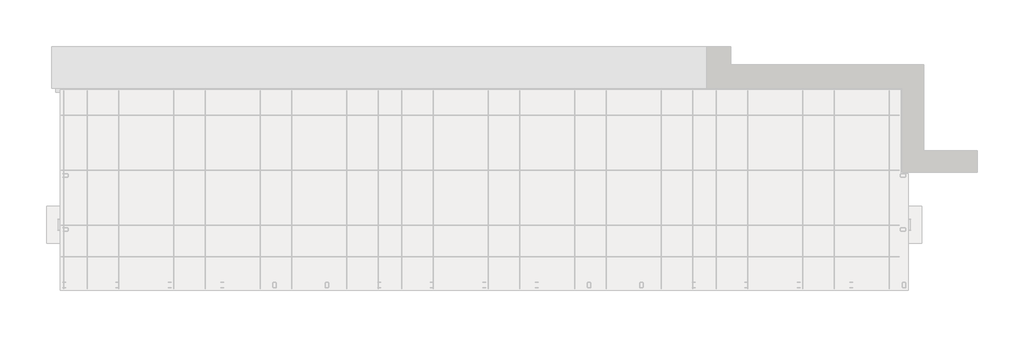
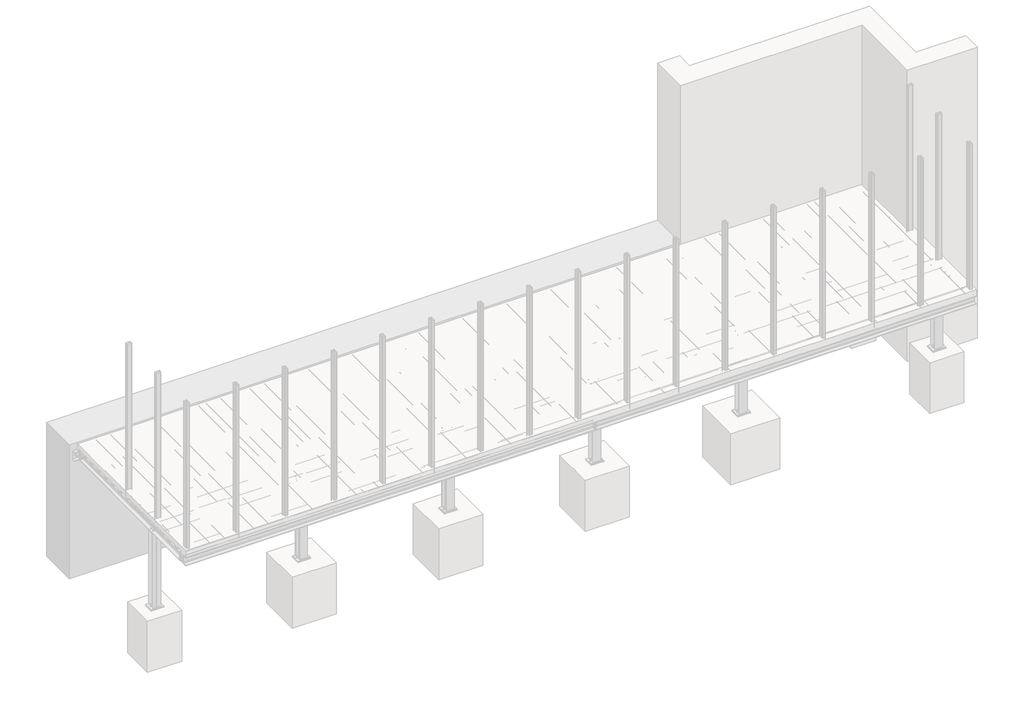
# One storey, part 26 of 36: 38 assemblies.
"""IFC4 building model written with IfcOpenShell, lengths in millimetres."""

from ifc_helpers import new_model, si_unit, point, frame, frame_2d, origin, place, context, project, spatial, polyline, circle_curve, trimmed, segment, composite_curve, outline, extrude, faceted_brep, element, save

model = new_model("IFC4")

# Units and contexts
model_context = context("Model", 3, world=origin())
ifc_project = project(units=[si_unit("LENGTHUNIT", "METRE", prefix="MILLI")], contexts=[model_context])

# Site, building, storey
site = spatial("IfcSite", under=ifc_project)
building = spatial("IfcBuilding", under=site)
storey = spatial("IfcBuildingStorey", under=building, Name="Základy", Elevation=-1200.0)

# Assemblies
placement = place(None, origin())
element("IfcElementAssembly", 1, at=placement, inside=storey, context=model_context, shape_type="SweptSolid", body=[
    extrude(outline(composite_curve([segment(polyline([(1200.0, -193.0), (1320.0, -193.0), (1320.0, -201.0), (1274.5, -201.0)]), True, "CONTINUOUS"), segment(trimmed(circle_curve(frame_2d((1274.5, -213.0)), 12.0), [point((1274.5, -201.0))], [point((1262.5, -213.0))], True, "CARTESIAN"), True, "CONTINUOUS"), segment(polyline([(1262.5, -213.0), (1262.5, -287.0)]), True, "CONTINUOUS"), segment(trimmed(circle_curve(frame_2d((1274.5, -287.0)), 12.0), [point((1262.5, -287.0))], [point((1274.5, -299.0))], True, "CARTESIAN"), True, "CONTINUOUS"), segment(polyline([(1274.5, -299.0), (1320.0, -299.0), (1320.0, -307.0), (1200.0, -307.0), (1200.0, -299.0), (1245.5, -299.0)]), True, "CONTINUOUS"), segment(trimmed(circle_curve(frame_2d((1245.5, -287.0)), 12.0), [point((1245.5, -299.0))], [point((1257.5, -287.0))], True, "CARTESIAN"), True, "CONTINUOUS"), segment(polyline([(1257.5, -287.0), (1257.5, -213.0)]), True, "CONTINUOUS"), segment(trimmed(circle_curve(frame_2d((1245.5, -213.0)), 12.0), [point((1257.5, -213.0))], [point((1245.5, -201.0))], True, "CARTESIAN"), True, "CONTINUOUS"), segment(polyline([(1245.5, -201.0), (1200.0, -201.0), (1200.0, -193.0)]), True, "CONTINUOUS")], self_intersect=False)), frame((6160.0, 0.0, 0.0), z_axis=(1.0, 0.0, 0.0), x_axis=(0.0, 1.0, 0.0)), (0.0, 0.0, 1.0), 2780.0),
    extrude(outline(polyline([(8940.0, 1200.0), (8940.0, 1320.0), (8950.0, 1320.0), (8950.0, 1200.0), (8940.0, 1200.0)])), frame((0.0, 0.0, -299.0), z_axis=(0.0, 0.0, 1.0), x_axis=(1.0, 0.0, 0.0)), (0.0, 0.0, 1.0), 98.0),
    extrude(outline(polyline([(6150.0, 1200.0), (6150.0, 1320.0), (6160.0, 1320.0), (6160.0, 1200.0), (6150.0, 1200.0)])), frame((0.0, 0.0, -299.0), z_axis=(0.0, 0.0, 1.0), x_axis=(1.0, 0.0, 0.0)), (0.0, 0.0, 1.0), 98.0),
])
element("IfcElementAssembly", 2, at=placement, inside=storey, context=model_context, shape_type="SweptSolid", body=[
    extrude(outline(composite_curve([segment(polyline([(6130.0, 1184.0), (5970.0, 1184.0), (5970.0, 1193.0), (6032.0, 1193.0)]), True, "CONTINUOUS"), segment(trimmed(circle_curve(frame_2d((6032.0, 1208.0)), 15.0), [point((6032.0, 1193.0))], [point((6047.0, 1208.0))], True, "CARTESIAN"), True, "CONTINUOUS"), segment(polyline([(6047.0, 1208.0), (6047.0, 1312.0)]), True, "CONTINUOUS"), segment(trimmed(circle_curve(frame_2d((6032.0, 1312.0)), 15.0), [point((6047.0, 1312.0))], [point((6032.0, 1327.0))], True, "CARTESIAN"), True, "CONTINUOUS"), segment(polyline([(6032.0, 1327.0), (5970.0, 1327.0), (5970.0, 1336.0), (6130.0, 1336.0), (6130.0, 1327.0), (6068.0, 1327.0)]), True, "CONTINUOUS"), segment(trimmed(circle_curve(frame_2d((6068.0, 1312.0)), 15.0), [point((6068.0, 1327.0))], [point((6053.0, 1312.0))], True, "CARTESIAN"), True, "CONTINUOUS"), segment(polyline([(6053.0, 1312.0), (6053.0, 1208.0)]), True, "CONTINUOUS"), segment(trimmed(circle_curve(frame_2d((6068.0, 1208.0)), 15.0), [point((6053.0, 1208.0))], [point((6068.0, 1193.0))], True, "CARTESIAN"), True, "CONTINUOUS"), segment(polyline([(6068.0, 1193.0), (6130.0, 1193.0), (6130.0, 1184.0)]), True, "CONTINUOUS")], self_intersect=False)), frame((0.0, 0.0, -1975.0), z_axis=(0.0, 0.0, 1.0), x_axis=(1.0, 0.0, 0.0)), (0.0, 0.0, 1.0), 1625.0),
    extrude(outline(polyline([(6175.0, 1356.0), (6175.0, 1164.0), (5925.0, 1164.0), (5925.0, 1356.0), (6175.0, 1356.0)])), frame((0.0, 0.0, -1990.0), z_axis=(0.0, 0.0, 1.0), x_axis=(1.0, 0.0, 0.0)), (0.0, 0.0, 1.0), 15.0),
    extrude(outline(polyline([(6140.0, 1346.0), (6140.0, 1174.0), (5960.0, 1174.0), (5960.0, 1346.0), (6140.0, 1346.0)])), frame((0.0, 0.0, -350.0), z_axis=(0.0, 0.0, 1.0), x_axis=(1.0, 0.0, 0.0)), (0.0, 0.0, 1.0), 10.0),
    extrude(outline(polyline([(5982.7364934, 1260.0), (5978.8682467, 1253.3000002), (5971.1317533, 1253.3000002), (5967.2635066, 1260.0), (5971.1317533, 1266.6999998), (5978.8682467, 1266.6999998), (5982.7364934, 1260.0)])), frame((0.0, 0.0, -2122.0), z_axis=(0.0, 0.0, 1.0), x_axis=(1.0, 0.0, 0.0)), (0.0, 0.0, 1.0), 132.0),
    extrude(outline(composite_curve([segment(trimmed(circle_curve(frame_2d((5975.0, 1260.0)), 8.0), [point((5983.0, 1260.0))], [point((5967.0, 1260.0))], False, "CARTESIAN"), True, "CONTINUOUS"), segment(trimmed(circle_curve(frame_2d((5975.0, 1260.0)), 8.0), [point((5967.0, 1260.0))], [point((5983.0, 1260.0))], False, "CARTESIAN"), True, "CONTINUOUS")], self_intersect=False)), frame((0.0, 0.0, -1990.0), z_axis=(0.0, 0.0, 1.0), x_axis=(1.0, 0.0, 0.0)), (0.0, 0.0, 1.0), 58.0),
    extrude(outline(composite_curve([segment(trimmed(circle_curve(frame_2d((5975.0, 1260.0)), 15.0), [point((5990.0, 1260.0))], [point((5960.0, 1260.0))], False, "CARTESIAN"), True, "CONTINUOUS"), segment(trimmed(circle_curve(frame_2d((5975.0, 1260.0)), 15.0), [point((5960.0, 1260.0))], [point((5990.0, 1260.0))], False, "CARTESIAN"), True, "CONTINUOUS")], self_intersect=False)), frame((0.0, 0.0, -1975.0), z_axis=(0.0, 0.0, 1.0), x_axis=(1.0, 0.0, 0.0)), (0.0, 0.0, 1.0), 3.0),
    extrude(outline(polyline([(5990.4441197, 1260.0), (5982.7220599, 1246.625), (5967.2779401, 1246.625), (5959.5558803, 1260.0), (5967.2779401, 1273.375), (5982.7220599, 1273.375), (5990.4441197, 1260.0)])), frame((0.0, 0.0, -1972.0), z_axis=(0.0, 0.0, 1.0), x_axis=(1.0, 0.0, 0.0)), (0.0, 0.0, 1.0), 13.0),
    extrude(outline(composite_curve([segment(trimmed(circle_curve(frame_2d((5975.0, 1260.0)), 9.0), [point((5984.0, 1260.0))], [point((5966.0, 1260.0))], False, "CARTESIAN"), True, "CONTINUOUS"), segment(trimmed(circle_curve(frame_2d((5975.0, 1260.0)), 9.0), [point((5966.0, 1260.0))], [point((5984.0, 1260.0))], False, "CARTESIAN"), True, "CONTINUOUS")], self_intersect=False)), frame((0.0, 0.0, -1990.0), z_axis=(0.0, 0.0, 1.0), x_axis=(1.0, 0.0, 0.0)), (0.0, 0.0, 1.0), 15.1),
    extrude(outline(polyline([(6132.7364934, 1260.0), (6128.8682467, 1253.3000002), (6121.1317533, 1253.3000002), (6117.2635066, 1260.0), (6121.1317533, 1266.6999998), (6128.8682467, 1266.6999998), (6132.7364934, 1260.0)])), frame((0.0, 0.0, -2122.0), z_axis=(0.0, 0.0, 1.0), x_axis=(1.0, 0.0, 0.0)), (0.0, 0.0, 1.0), 132.0),
    extrude(outline(composite_curve([segment(trimmed(circle_curve(frame_2d((6125.0, 1260.0)), 8.0), [point((6133.0, 1260.0))], [point((6117.0, 1260.0))], False, "CARTESIAN"), True, "CONTINUOUS"), segment(trimmed(circle_curve(frame_2d((6125.0, 1260.0)), 8.0), [point((6117.0, 1260.0))], [point((6133.0, 1260.0))], False, "CARTESIAN"), True, "CONTINUOUS")], self_intersect=False)), frame((0.0, 0.0, -1990.0), z_axis=(0.0, 0.0, 1.0), x_axis=(1.0, 0.0, 0.0)), (0.0, 0.0, 1.0), 58.0),
    extrude(outline(composite_curve([segment(trimmed(circle_curve(frame_2d((6125.0, 1260.0)), 15.0), [point((6140.0, 1260.0))], [point((6110.0, 1260.0))], False, "CARTESIAN"), True, "CONTINUOUS"), segment(trimmed(circle_curve(frame_2d((6125.0, 1260.0)), 15.0), [point((6110.0, 1260.0))], [point((6140.0, 1260.0))], False, "CARTESIAN"), True, "CONTINUOUS")], self_intersect=False)), frame((0.0, 0.0, -1975.0), z_axis=(0.0, 0.0, 1.0), x_axis=(1.0, 0.0, 0.0)), (0.0, 0.0, 1.0), 3.0),
    extrude(outline(polyline([(6140.4441197, 1260.0), (6132.7220599, 1246.625), (6117.2779401, 1246.625), (6109.5558803, 1260.0), (6117.2779401, 1273.375), (6132.7220599, 1273.375), (6140.4441197, 1260.0)])), frame((0.0, 0.0, -1972.0), z_axis=(0.0, 0.0, 1.0), x_axis=(1.0, 0.0, 0.0)), (0.0, 0.0, 1.0), 13.0),
    extrude(outline(composite_curve([segment(trimmed(circle_curve(frame_2d((6125.0, 1260.0)), 9.0), [point((6134.0, 1260.0))], [point((6116.0, 1260.0))], False, "CARTESIAN"), True, "CONTINUOUS"), segment(trimmed(circle_curve(frame_2d((6125.0, 1260.0)), 9.0), [point((6116.0, 1260.0))], [point((6134.0, 1260.0))], False, "CARTESIAN"), True, "CONTINUOUS")], self_intersect=False)), frame((0.0, 0.0, -1990.0), z_axis=(0.0, 0.0, 1.0), x_axis=(1.0, 0.0, 0.0)), (0.0, 0.0, 1.0), 15.1),
    extrude(outline(composite_curve([segment(trimmed(circle_curve(frame_2d((6000.0, 1220.0)), 6.5), [point((6006.5, 1220.0))], [point((5993.5, 1220.0))], False, "CARTESIAN"), True, "CONTINUOUS"), segment(trimmed(circle_curve(frame_2d((6000.0, 1220.0)), 6.5), [point((5993.5, 1220.0))], [point((6006.5, 1220.0))], False, "CARTESIAN"), True, "CONTINUOUS")], self_intersect=False)), frame((0.0, 0.0, -350.0), z_axis=(0.0, 0.0, 1.0), x_axis=(1.0, 0.0, 0.0)), (0.0, 0.0, 1.0), 10.1),
    extrude(outline(polyline([(6010.3923048, 1220.0), (6005.1961524, 1211.0), (5994.8038476, 1211.0), (5989.6076952, 1220.0), (5994.8038476, 1229.0), (6005.1961524, 1229.0), (6010.3923048, 1220.0)])), frame((0.0, 0.0, -323.5), z_axis=(0.0, 0.0, 1.0), x_axis=(1.0, 0.0, 0.0)), (0.0, 0.0, 1.0), 7.5),
    extrude(outline(composite_curve([segment(trimmed(circle_curve(frame_2d((6000.0, 1220.0)), 6.0), [point((6006.0, 1220.0))], [point((5994.0, 1220.0))], False, "CARTESIAN"), True, "CONTINUOUS"), segment(trimmed(circle_curve(frame_2d((6000.0, 1220.0)), 6.0), [point((5994.0, 1220.0))], [point((6006.0, 1220.0))], False, "CARTESIAN"), True, "CONTINUOUS")], self_intersect=False)), frame((0.0, 0.0, -368.5), z_axis=(0.0, 0.0, 1.0), x_axis=(1.0, 0.0, 0.0)), (0.0, 0.0, 1.0), 45.0),
    extrude(outline(composite_curve([segment(trimmed(circle_curve(frame_2d((6000.0, 1220.0)), 12.0), [point((6012.0, 1220.0))], [point((5988.0, 1220.0))], False, "CARTESIAN"), True, "CONTINUOUS"), segment(trimmed(circle_curve(frame_2d((6000.0, 1220.0)), 12.0), [point((5988.0, 1220.0))], [point((6012.0, 1220.0))], False, "CARTESIAN"), True, "CONTINUOUS")], self_intersect=False)), frame((0.0, 0.0, -326.0), z_axis=(0.0, 0.0, 1.0), x_axis=(1.0, 0.0, 0.0)), (0.0, 0.0, 1.0), 2.5),
    extrude(outline(composite_curve([segment(trimmed(circle_curve(frame_2d((6000.0, 1220.0)), 12.0), [point((6012.0, 1220.0))], [point((5988.0, 1220.0))], False, "CARTESIAN"), True, "CONTINUOUS"), segment(trimmed(circle_curve(frame_2d((6000.0, 1220.0)), 12.0), [point((5988.0, 1220.0))], [point((6012.0, 1220.0))], False, "CARTESIAN"), True, "CONTINUOUS")], self_intersect=False)), frame((0.0, 0.0, -352.5), z_axis=(0.0, 0.0, 1.0), x_axis=(1.0, 0.0, 0.0)), (0.0, 0.0, 1.0), 2.5),
    extrude(outline(polyline([(6010.9696551, 1220.0), (6005.4848276, 1210.5), (5994.5151724, 1210.5), (5989.0303449, 1220.0), (5994.5151724, 1229.5), (6005.4848276, 1229.5), (6010.9696551, 1220.0)])), frame((0.0, 0.0, -362.5), z_axis=(0.0, 0.0, 1.0), x_axis=(1.0, 0.0, 0.0)), (0.0, 0.0, 1.0), 10.0),
    extrude(outline(composite_curve([segment(trimmed(circle_curve(frame_2d((6000.0, 1220.0)), 6.5), [point((6006.5, 1220.0))], [point((5993.5, 1220.0))], False, "CARTESIAN"), True, "CONTINUOUS"), segment(trimmed(circle_curve(frame_2d((6000.0, 1220.0)), 6.5), [point((5993.5, 1220.0))], [point((6006.5, 1220.0))], False, "CARTESIAN"), True, "CONTINUOUS")], self_intersect=False)), frame((0.0, 0.0, -340.1), z_axis=(0.0, 0.0, 1.0), x_axis=(1.0, 0.0, 0.0)), (0.0, 0.0, 1.0), 14.0),
    extrude(outline(composite_curve([segment(trimmed(circle_curve(frame_2d((6100.0, 1220.0)), 6.5), [point((6106.5, 1220.0))], [point((6093.5, 1220.0))], False, "CARTESIAN"), True, "CONTINUOUS"), segment(trimmed(circle_curve(frame_2d((6100.0, 1220.0)), 6.5), [point((6093.5, 1220.0))], [point((6106.5, 1220.0))], False, "CARTESIAN"), True, "CONTINUOUS")], self_intersect=False)), frame((0.0, 0.0, -350.0), z_axis=(0.0, 0.0, 1.0), x_axis=(1.0, 0.0, 0.0)), (0.0, 0.0, 1.0), 10.1),
    extrude(outline(polyline([(6110.3923048, 1220.0), (6105.1961524, 1211.0), (6094.8038476, 1211.0), (6089.6076952, 1220.0), (6094.8038476, 1229.0), (6105.1961524, 1229.0), (6110.3923048, 1220.0)])), frame((0.0, 0.0, -323.5), z_axis=(0.0, 0.0, 1.0), x_axis=(1.0, 0.0, 0.0)), (0.0, 0.0, 1.0), 7.5),
    extrude(outline(composite_curve([segment(trimmed(circle_curve(frame_2d((6100.0, 1220.0)), 6.0), [point((6106.0, 1220.0))], [point((6094.0, 1220.0))], False, "CARTESIAN"), True, "CONTINUOUS"), segment(trimmed(circle_curve(frame_2d((6100.0, 1220.0)), 6.0), [point((6094.0, 1220.0))], [point((6106.0, 1220.0))], False, "CARTESIAN"), True, "CONTINUOUS")], self_intersect=False)), frame((0.0, 0.0, -368.5), z_axis=(0.0, 0.0, 1.0), x_axis=(1.0, 0.0, 0.0)), (0.0, 0.0, 1.0), 45.0),
    extrude(outline(composite_curve([segment(trimmed(circle_curve(frame_2d((6100.0, 1220.0)), 12.0), [point((6112.0, 1220.0))], [point((6088.0, 1220.0))], False, "CARTESIAN"), True, "CONTINUOUS"), segment(trimmed(circle_curve(frame_2d((6100.0, 1220.0)), 12.0), [point((6088.0, 1220.0))], [point((6112.0, 1220.0))], False, "CARTESIAN"), True, "CONTINUOUS")], self_intersect=False)), frame((0.0, 0.0, -326.0), z_axis=(0.0, 0.0, 1.0), x_axis=(1.0, 0.0, 0.0)), (0.0, 0.0, 1.0), 2.5),
    extrude(outline(composite_curve([segment(trimmed(circle_curve(frame_2d((6100.0, 1220.0)), 12.0), [point((6112.0, 1220.0))], [point((6088.0, 1220.0))], False, "CARTESIAN"), True, "CONTINUOUS"), segment(trimmed(circle_curve(frame_2d((6100.0, 1220.0)), 12.0), [point((6088.0, 1220.0))], [point((6112.0, 1220.0))], False, "CARTESIAN"), True, "CONTINUOUS")], self_intersect=False)), frame((0.0, 0.0, -352.5), z_axis=(0.0, 0.0, 1.0), x_axis=(1.0, 0.0, 0.0)), (0.0, 0.0, 1.0), 2.5),
    extrude(outline(polyline([(6110.9696551, 1220.0), (6105.4848276, 1210.5), (6094.5151724, 1210.5), (6089.0303449, 1220.0), (6094.5151724, 1229.5), (6105.4848276, 1229.5), (6110.9696551, 1220.0)])), frame((0.0, 0.0, -362.5), z_axis=(0.0, 0.0, 1.0), x_axis=(1.0, 0.0, 0.0)), (0.0, 0.0, 1.0), 10.0),
    extrude(outline(composite_curve([segment(trimmed(circle_curve(frame_2d((6100.0, 1220.0)), 6.5), [point((6106.5, 1220.0))], [point((6093.5, 1220.0))], False, "CARTESIAN"), True, "CONTINUOUS"), segment(trimmed(circle_curve(frame_2d((6100.0, 1220.0)), 6.5), [point((6093.5, 1220.0))], [point((6106.5, 1220.0))], False, "CARTESIAN"), True, "CONTINUOUS")], self_intersect=False)), frame((0.0, 0.0, -340.1), z_axis=(0.0, 0.0, 1.0), x_axis=(1.0, 0.0, 0.0)), (0.0, 0.0, 1.0), 14.0),
    extrude(outline(composite_curve([segment(trimmed(circle_curve(frame_2d((6000.0, 1300.0)), 6.5), [point((6006.5, 1300.0))], [point((5993.5, 1300.0))], False, "CARTESIAN"), True, "CONTINUOUS"), segment(trimmed(circle_curve(frame_2d((6000.0, 1300.0)), 6.5), [point((5993.5, 1300.0))], [point((6006.5, 1300.0))], False, "CARTESIAN"), True, "CONTINUOUS")], self_intersect=False)), frame((0.0, 0.0, -350.0), z_axis=(0.0, 0.0, 1.0), x_axis=(1.0, 0.0, 0.0)), (0.0, 0.0, 1.0), 10.1),
    extrude(outline(polyline([(6010.3923048, 1300.0), (6005.1961524, 1291.0), (5994.8038476, 1291.0), (5989.6076952, 1300.0), (5994.8038476, 1309.0), (6005.1961524, 1309.0), (6010.3923048, 1300.0)])), frame((0.0, 0.0, -323.5), z_axis=(0.0, 0.0, 1.0), x_axis=(1.0, 0.0, 0.0)), (0.0, 0.0, 1.0), 7.5),
    extrude(outline(composite_curve([segment(trimmed(circle_curve(frame_2d((6000.0, 1300.0)), 6.0), [point((6006.0, 1300.0))], [point((5994.0, 1300.0))], False, "CARTESIAN"), True, "CONTINUOUS"), segment(trimmed(circle_curve(frame_2d((6000.0, 1300.0)), 6.0), [point((5994.0, 1300.0))], [point((6006.0, 1300.0))], False, "CARTESIAN"), True, "CONTINUOUS")], self_intersect=False)), frame((0.0, 0.0, -368.5), z_axis=(0.0, 0.0, 1.0), x_axis=(1.0, 0.0, 0.0)), (0.0, 0.0, 1.0), 45.0),
    extrude(outline(composite_curve([segment(trimmed(circle_curve(frame_2d((6000.0, 1300.0)), 12.0), [point((6012.0, 1300.0))], [point((5988.0, 1300.0))], False, "CARTESIAN"), True, "CONTINUOUS"), segment(trimmed(circle_curve(frame_2d((6000.0, 1300.0)), 12.0), [point((5988.0, 1300.0))], [point((6012.0, 1300.0))], False, "CARTESIAN"), True, "CONTINUOUS")], self_intersect=False)), frame((0.0, 0.0, -326.0), z_axis=(0.0, 0.0, 1.0), x_axis=(1.0, 0.0, 0.0)), (0.0, 0.0, 1.0), 2.5),
    extrude(outline(composite_curve([segment(trimmed(circle_curve(frame_2d((6000.0, 1300.0)), 12.0), [point((6012.0, 1300.0))], [point((5988.0, 1300.0))], False, "CARTESIAN"), True, "CONTINUOUS"), segment(trimmed(circle_curve(frame_2d((6000.0, 1300.0)), 12.0), [point((5988.0, 1300.0))], [point((6012.0, 1300.0))], False, "CARTESIAN"), True, "CONTINUOUS")], self_intersect=False)), frame((0.0, 0.0, -352.5), z_axis=(0.0, 0.0, 1.0), x_axis=(1.0, 0.0, 0.0)), (0.0, 0.0, 1.0), 2.5),
    extrude(outline(polyline([(6010.9696551, 1300.0), (6005.4848276, 1290.5), (5994.5151724, 1290.5), (5989.0303449, 1300.0), (5994.5151724, 1309.5), (6005.4848276, 1309.5), (6010.9696551, 1300.0)])), frame((0.0, 0.0, -362.5), z_axis=(0.0, 0.0, 1.0), x_axis=(1.0, 0.0, 0.0)), (0.0, 0.0, 1.0), 10.0),
    extrude(outline(composite_curve([segment(trimmed(circle_curve(frame_2d((6000.0, 1300.0)), 6.5), [point((6006.5, 1300.0))], [point((5993.5, 1300.0))], False, "CARTESIAN"), True, "CONTINUOUS"), segment(trimmed(circle_curve(frame_2d((6000.0, 1300.0)), 6.5), [point((5993.5, 1300.0))], [point((6006.5, 1300.0))], False, "CARTESIAN"), True, "CONTINUOUS")], self_intersect=False)), frame((0.0, 0.0, -340.1), z_axis=(0.0, 0.0, 1.0), x_axis=(1.0, 0.0, 0.0)), (0.0, 0.0, 1.0), 14.0),
    extrude(outline(composite_curve([segment(trimmed(circle_curve(frame_2d((6100.0, 1300.0)), 6.5), [point((6106.5, 1300.0))], [point((6093.5, 1300.0))], False, "CARTESIAN"), True, "CONTINUOUS"), segment(trimmed(circle_curve(frame_2d((6100.0, 1300.0)), 6.5), [point((6093.5, 1300.0))], [point((6106.5, 1300.0))], False, "CARTESIAN"), True, "CONTINUOUS")], self_intersect=False)), frame((0.0, 0.0, -350.0), z_axis=(0.0, 0.0, 1.0), x_axis=(1.0, 0.0, 0.0)), (0.0, 0.0, 1.0), 10.1),
    extrude(outline(polyline([(6110.3923048, 1300.0), (6105.1961524, 1291.0), (6094.8038476, 1291.0), (6089.6076952, 1300.0), (6094.8038476, 1309.0), (6105.1961524, 1309.0), (6110.3923048, 1300.0)])), frame((0.0, 0.0, -323.5), z_axis=(0.0, 0.0, 1.0), x_axis=(1.0, 0.0, 0.0)), (0.0, 0.0, 1.0), 7.5),
    extrude(outline(composite_curve([segment(trimmed(circle_curve(frame_2d((6100.0, 1300.0)), 6.0), [point((6106.0, 1300.0))], [point((6094.0, 1300.0))], False, "CARTESIAN"), True, "CONTINUOUS"), segment(trimmed(circle_curve(frame_2d((6100.0, 1300.0)), 6.0), [point((6094.0, 1300.0))], [point((6106.0, 1300.0))], False, "CARTESIAN"), True, "CONTINUOUS")], self_intersect=False)), frame((0.0, 0.0, -368.5), z_axis=(0.0, 0.0, 1.0), x_axis=(1.0, 0.0, 0.0)), (0.0, 0.0, 1.0), 45.0),
    extrude(outline(composite_curve([segment(trimmed(circle_curve(frame_2d((6100.0, 1300.0)), 12.0), [point((6112.0, 1300.0))], [point((6088.0, 1300.0))], False, "CARTESIAN"), True, "CONTINUOUS"), segment(trimmed(circle_curve(frame_2d((6100.0, 1300.0)), 12.0), [point((6088.0, 1300.0))], [point((6112.0, 1300.0))], False, "CARTESIAN"), True, "CONTINUOUS")], self_intersect=False)), frame((0.0, 0.0, -326.0), z_axis=(0.0, 0.0, 1.0), x_axis=(1.0, 0.0, 0.0)), (0.0, 0.0, 1.0), 2.5),
    extrude(outline(composite_curve([segment(trimmed(circle_curve(frame_2d((6100.0, 1300.0)), 12.0), [point((6112.0, 1300.0))], [point((6088.0, 1300.0))], False, "CARTESIAN"), True, "CONTINUOUS"), segment(trimmed(circle_curve(frame_2d((6100.0, 1300.0)), 12.0), [point((6088.0, 1300.0))], [point((6112.0, 1300.0))], False, "CARTESIAN"), True, "CONTINUOUS")], self_intersect=False)), frame((0.0, 0.0, -352.5), z_axis=(0.0, 0.0, 1.0), x_axis=(1.0, 0.0, 0.0)), (0.0, 0.0, 1.0), 2.5),
    extrude(outline(polyline([(6110.9696551, 1300.0), (6105.4848276, 1290.5), (6094.5151724, 1290.5), (6089.0303449, 1300.0), (6094.5151724, 1309.5), (6105.4848276, 1309.5), (6110.9696551, 1300.0)])), frame((0.0, 0.0, -362.5), z_axis=(0.0, 0.0, 1.0), x_axis=(1.0, 0.0, 0.0)), (0.0, 0.0, 1.0), 10.0),
    extrude(outline(composite_curve([segment(trimmed(circle_curve(frame_2d((6100.0, 1300.0)), 6.5), [point((6106.5, 1300.0))], [point((6093.5, 1300.0))], False, "CARTESIAN"), True, "CONTINUOUS"), segment(trimmed(circle_curve(frame_2d((6100.0, 1300.0)), 6.5), [point((6093.5, 1300.0))], [point((6106.5, 1300.0))], False, "CARTESIAN"), True, "CONTINUOUS")], self_intersect=False)), frame((0.0, 0.0, -340.1), z_axis=(0.0, 0.0, 1.0), x_axis=(1.0, 0.0, 0.0)), (0.0, 0.0, 1.0), 14.0),
])
element("IfcElementAssembly", 3, at=placement, inside=storey, context=model_context, shape_type="SweptSolid", body=[
    extrude(outline(polyline([(6500.0, 1710.0), (6500.0, 810.0), (5600.0, 810.0), (5600.0, 1710.0), (6500.0, 1710.0)])), frame((0.0, 0.0, -3100.0), z_axis=(0.0, 0.0, 1.0), x_axis=(1.0, 0.0, 0.0)), (0.0, 0.0, 1.0), 1100.0),
])
element("IfcElementAssembly", 4, at=placement, inside=storey, context=model_context, shape_type="SweptSolid", body=[
    extrude(outline(polyline([(3802.7875602, -160.0099992), (3772.2875602, -111.5000008), (3637.6975638, -111.5000008), (3607.1975638, -160.0000008), (3552.7875754, -160.0000008), (3522.2875754, -111.5000008), (3387.6975715, -111.5000008), (3357.1975715, -160.0000008), (3302.7875697, -160.0000008), (3272.2875716, -111.5000008), (3137.6975638, -111.5000008), (3107.1975638, -160.0000008), (3052.7875602, -160.0000008), (3022.2875602, -111.5000008), (2887.6975638, -111.5000008), (2857.1975638, -160.0000008), (2802.7875602, -160.0000008), (2790.7375724, -139.4300002), (2803.1975638, -159.2500008), (2856.7875602, -159.2500008), (2887.2875602, -110.7500008), (3022.6975638, -110.7500008), (3053.1975638, -159.2500008), (3106.7875754, -159.2500008), (3137.2875754, -110.7500008), (3272.6975715, -110.7500008), (3303.1975695, -159.2500008), (3356.7875716, -159.2500008), (3387.2875678, -110.7500008), (3522.6975638, -110.7500008), (3553.1975638, -159.2500008), (3606.7875602, -159.2500008), (3637.2875602, -110.7500008), (3772.6975638, -110.7500008), (3803.1975638, -159.2500008), (3839.9975821, -160.0000008), (3802.7875602, -160.0099992)])), frame((2960.0, 0.0, 0.0), z_axis=(1.0, 0.0, 0.0), x_axis=(0.0, 1.0, 0.0)), (0.0, 0.0, 1.0), 3180.0),
])
element("IfcElementAssembly", 5, at=placement, inside=storey, context=model_context, shape_type="SweptSolid", body=[
    extrude(outline(polyline([(2802.7875602, -160.0099992), (2772.2875602, -111.5000008), (2637.6975638, -111.5000008), (2607.1975638, -160.0000008), (2552.7875754, -160.0000008), (2522.2875754, -111.5000008), (2387.6975715, -111.5000008), (2357.1975715, -160.0000008), (2302.7875697, -160.0000008), (2272.2875716, -111.5000008), (2137.6975638, -111.5000008), (2107.1975638, -160.0000008), (2052.7875602, -160.0000008), (2022.2875602, -111.5000008), (1887.6975638, -111.5000008), (1857.1975638, -160.0000008), (1802.7875602, -160.0000008), (1790.7375724, -139.4300002), (1803.1975638, -159.2500008), (1856.7875602, -159.2500008), (1887.2875602, -110.7500008), (2022.6975638, -110.7500008), (2053.1975638, -159.2500008), (2106.7875754, -159.2500008), (2137.2875754, -110.7500008), (2272.6975715, -110.7500008), (2303.1975695, -159.2500008), (2356.7875716, -159.2500008), (2387.2875678, -110.7500008), (2522.6975638, -110.7500008), (2553.1975638, -159.2500008), (2606.7875602, -159.2500008), (2637.2875602, -110.7500008), (2772.6975638, -110.7500008), (2803.1975638, -159.2500008), (2839.9975821, -160.0000008), (2802.7875602, -160.0099992)])), frame((2960.0, 0.0, 0.0), z_axis=(1.0, 0.0, 0.0), x_axis=(0.0, 1.0, 0.0)), (0.0, 0.0, 1.0), 3180.0),
])
element("IfcElementAssembly", 6, at=placement, inside=storey, context=model_context, shape_type="SweptSolid", body=[
    extrude(outline(polyline([(2802.7875602, -160.0099992), (2772.2875602, -111.5000008), (2637.6975638, -111.5000008), (2607.1975638, -160.0000008), (2552.7875754, -160.0000008), (2522.2875754, -111.5000008), (2387.6975715, -111.5000008), (2357.1975715, -160.0000008), (2302.7875697, -160.0000008), (2272.2875716, -111.5000008), (2137.6975638, -111.5000008), (2107.1975638, -160.0000008), (2052.7875602, -160.0000008), (2022.2875602, -111.5000008), (1887.6975638, -111.5000008), (1857.1975638, -160.0000008), (1802.7875602, -160.0000008), (1790.7375724, -139.4300002), (1803.1975638, -159.2500008), (1856.7875602, -159.2500008), (1887.2875602, -110.7500008), (2022.6975638, -110.7500008), (2053.1975638, -159.2500008), (2106.7875754, -159.2500008), (2137.2875754, -110.7500008), (2272.6975715, -110.7500008), (2303.1975695, -159.2500008), (2356.7875716, -159.2500008), (2387.2875678, -110.7500008), (2522.6975638, -110.7500008), (2553.1975638, -159.2500008), (2606.7875602, -159.2500008), (2637.2875602, -110.7500008), (2772.6975638, -110.7500008), (2803.1975638, -159.2500008), (2839.9975821, -160.0000008), (2802.7875602, -160.0099992)])), frame((5960.0, 0.0, 0.0), z_axis=(1.0, 0.0, 0.0), x_axis=(0.0, 1.0, 0.0)), (0.0, 0.0, 1.0), 3180.0),
])
element("IfcElementAssembly", 7, at=placement, inside=storey, context=model_context, shape_type="SweptSolid", body=[
    extrude(outline(polyline([(1802.7875602, -160.0099992), (1772.2875602, -111.5000008), (1637.6975638, -111.5000008), (1607.1975638, -160.0000008), (1552.7875754, -160.0000008), (1522.2875754, -111.5000008), (1387.6975715, -111.5000008), (1357.1975715, -160.0000008), (1302.7875697, -160.0000008), (1272.2875716, -111.5000008), (1137.6975638, -111.5000008), (1107.1975638, -160.0000008), (1052.7875602, -160.0000008), (1022.2875602, -111.5000008), (887.6975638, -111.5000008), (857.1975638, -160.0000008), (802.7875602, -160.0000008), (790.7375724, -139.4300002), (803.1975638, -159.2500008), (856.7875602, -159.2500008), (887.2875602, -110.7500008), (1022.6975638, -110.7500008), (1053.1975638, -159.2500008), (1106.7875754, -159.2500008), (1137.2875754, -110.7500008), (1272.6975715, -110.7500008), (1303.1975695, -159.2500008), (1356.7875716, -159.2500008), (1387.2875678, -110.7500008), (1522.6975638, -110.7500008), (1553.1975638, -159.2500008), (1606.7875602, -159.2500008), (1637.2875602, -110.7500008), (1772.6975638, -110.7500008), (1803.1975638, -159.2500008), (1839.9975821, -160.0000008), (1802.7875602, -160.0099992)])), frame((5960.0, 0.0, 0.0), z_axis=(1.0, 0.0, 0.0), x_axis=(0.0, 1.0, 0.0)), (0.0, 0.0, 1.0), 3180.0),
])
element("IfcElementAssembly", 8, at=placement, inside=storey, context=model_context, shape_type="Brep", body=[
    faceted_brep([(5925.0, 1356.0, -1990.0), (5925.0, 1164.0, -1990.0), (6175.0, 1164.0, -1990.0), (6175.0, 1356.0, -1990.0), (6185.0, 1154.0, -2000.0), (5915.0, 1154.0, -2000.0), (5915.0, 1366.0, -2000.0), (6185.0, 1366.0, -2000.0)], [[[0, 1, 2, 3]], [[4, 5, 6, 7]], [[5, 4, 2, 1]], [[1, 0, 6, 5]], [[7, 6, 0, 3]], [[3, 2, 4, 7]]]),
])
element("IfcElementAssembly", 9, at=placement, inside=storey, context=model_context, shape_type="SweptSolid", body=[
    extrude(outline(composite_curve([segment(trimmed(circle_curve(frame_2d((2829.992562, -139.0)), 6.0), [point((2823.992562, -139.0))], [point((2835.992562, -139.0))], False, "CARTESIAN"), True, "CONTINUOUS"), segment(trimmed(circle_curve(frame_2d((2829.992562, -139.0)), 6.0), [point((2835.992562, -139.0))], [point((2823.992562, -139.0))], False, "CARTESIAN"), True, "CONTINUOUS")], self_intersect=False)), frame((-40.0, 0.0, 0.0), z_axis=(1.0, 0.0, 0.0), x_axis=(0.0, 1.0, 0.0)), (0.0, 0.0, 1.0), 16035.0),
])
element("IfcElementAssembly", 10, at=placement, inside=storey, context=model_context, shape_type="SweptSolid", body=[
    extrude(outline(composite_curve([segment(trimmed(circle_curve(frame_2d((2579.992562, -139.0)), 6.0), [point((2573.992562, -139.0))], [point((2585.992562, -139.0))], False, "CARTESIAN"), True, "CONTINUOUS"), segment(trimmed(circle_curve(frame_2d((2579.992562, -139.0)), 6.0), [point((2585.992562, -139.0))], [point((2573.992562, -139.0))], False, "CARTESIAN"), True, "CONTINUOUS")], self_intersect=False)), frame((-40.0, 0.0, 0.0), z_axis=(1.0, 0.0, 0.0), x_axis=(0.0, 1.0, 0.0)), (0.0, 0.0, 1.0), 16035.0),
])
element("IfcElementAssembly", 11, at=placement, inside=storey, context=model_context, shape_type="SweptSolid", body=[
    extrude(outline(composite_curve([segment(trimmed(circle_curve(frame_2d((2329.992562, -139.0)), 6.0), [point((2323.992562, -139.0))], [point((2335.992562, -139.0))], False, "CARTESIAN"), True, "CONTINUOUS"), segment(trimmed(circle_curve(frame_2d((2329.992562, -139.0)), 6.0), [point((2335.992562, -139.0))], [point((2323.992562, -139.0))], False, "CARTESIAN"), True, "CONTINUOUS")], self_intersect=False)), frame((-40.0, 0.0, 0.0), z_axis=(1.0, 0.0, 0.0), x_axis=(0.0, 1.0, 0.0)), (0.0, 0.0, 1.0), 16035.0),
])
element("IfcElementAssembly", 12, at=placement, inside=storey, context=model_context, shape_type="SweptSolid", body=[
    extrude(outline(composite_curve([segment(trimmed(circle_curve(frame_2d((2899.9975821, -57.0)), 4.0), [point((2895.9975821, -57.0))], [point((2903.9975821, -57.0))], False, "CARTESIAN"), True, "CONTINUOUS"), segment(trimmed(circle_curve(frame_2d((2899.9975821, -57.0)), 4.0), [point((2903.9975821, -57.0))], [point((2895.9975821, -57.0))], False, "CARTESIAN"), True, "CONTINUOUS")], self_intersect=False)), frame((-15.0, 0.0, 0.0), z_axis=(1.0, 0.0, 0.0), x_axis=(0.0, 1.0, 0.0)), (0.0, 0.0, 1.0), 15985.0),
])
element("IfcElementAssembly", 13, at=placement, inside=storey, context=model_context, shape_type="SweptSolid", body=[
    extrude(outline(composite_curve([segment(trimmed(circle_curve(frame_2d((2749.9975821, -57.0)), 4.0), [point((2745.9975821, -57.0))], [point((2753.9975821, -57.0))], False, "CARTESIAN"), True, "CONTINUOUS"), segment(trimmed(circle_curve(frame_2d((2749.9975821, -57.0)), 4.0), [point((2753.9975821, -57.0))], [point((2745.9975821, -57.0))], False, "CARTESIAN"), True, "CONTINUOUS")], self_intersect=False)), frame((-15.0, 0.0, 0.0), z_axis=(1.0, 0.0, 0.0), x_axis=(0.0, 1.0, 0.0)), (0.0, 0.0, 1.0), 15985.0),
])
element("IfcElementAssembly", 14, at=placement, inside=storey, context=model_context, shape_type="SweptSolid", body=[
    extrude(outline(composite_curve([segment(trimmed(circle_curve(frame_2d((2599.9975821, -57.0)), 4.0), [point((2595.9975821, -57.0))], [point((2603.9975821, -57.0))], False, "CARTESIAN"), True, "CONTINUOUS"), segment(trimmed(circle_curve(frame_2d((2599.9975821, -57.0)), 4.0), [point((2603.9975821, -57.0))], [point((2595.9975821, -57.0))], False, "CARTESIAN"), True, "CONTINUOUS")], self_intersect=False)), frame((-15.0, 0.0, 0.0), z_axis=(1.0, 0.0, 0.0), x_axis=(0.0, 1.0, 0.0)), (0.0, 0.0, 1.0), 15985.0),
])
element("IfcElementAssembly", 15, at=placement, inside=storey, context=model_context, shape_type="SweptSolid", body=[
    extrude(outline(composite_curve([segment(trimmed(circle_curve(frame_2d((2449.9975821, -57.0)), 4.0), [point((2445.9975821, -57.0))], [point((2453.9975821, -57.0))], False, "CARTESIAN"), True, "CONTINUOUS"), segment(trimmed(circle_curve(frame_2d((2449.9975821, -57.0)), 4.0), [point((2453.9975821, -57.0))], [point((2445.9975821, -57.0))], False, "CARTESIAN"), True, "CONTINUOUS")], self_intersect=False)), frame((-15.0, 0.0, 0.0), z_axis=(1.0, 0.0, 0.0), x_axis=(0.0, 1.0, 0.0)), (0.0, 0.0, 1.0), 15985.0),
])
element("IfcElementAssembly", 16, at=placement, inside=storey, context=model_context, shape_type="SweptSolid", body=[
    extrude(outline(composite_curve([segment(trimmed(circle_curve(frame_2d((2299.9975821, -57.0)), 4.0), [point((2295.9975821, -57.0))], [point((2303.9975821, -57.0))], False, "CARTESIAN"), True, "CONTINUOUS"), segment(trimmed(circle_curve(frame_2d((2299.9975821, -57.0)), 4.0), [point((2303.9975821, -57.0))], [point((2295.9975821, -57.0))], False, "CARTESIAN"), True, "CONTINUOUS")], self_intersect=False)), frame((-15.0, 0.0, 0.0), z_axis=(1.0, 0.0, 0.0), x_axis=(0.0, 1.0, 0.0)), (0.0, 0.0, 1.0), 15985.0),
])
element("IfcElementAssembly", 17, at=placement, inside=storey, context=model_context, shape_type="SweptSolid", body=[
    extrude(outline(composite_curve([segment(trimmed(circle_curve(frame_2d((2149.9975821, -57.0)), 4.0), [point((2145.9975821, -57.0))], [point((2153.9975821, -57.0))], False, "CARTESIAN"), True, "CONTINUOUS"), segment(trimmed(circle_curve(frame_2d((2149.9975821, -57.0)), 4.0), [point((2153.9975821, -57.0))], [point((2145.9975821, -57.0))], False, "CARTESIAN"), True, "CONTINUOUS")], self_intersect=False)), frame((-15.0, 0.0, 0.0), z_axis=(1.0, 0.0, 0.0), x_axis=(0.0, 1.0, 0.0)), (0.0, 0.0, 1.0), 15985.0),
])
element("IfcElementAssembly", 18, at=placement, inside=storey, context=model_context, shape_type="SweptSolid", body=[
    extrude(outline(composite_curve([segment(trimmed(circle_curve(frame_2d((1999.9975821, -57.0)), 4.0), [point((1995.9975821, -57.0))], [point((2003.9975821, -57.0))], False, "CARTESIAN"), True, "CONTINUOUS"), segment(trimmed(circle_curve(frame_2d((1999.9975821, -57.0)), 4.0), [point((2003.9975821, -57.0))], [point((1995.9975821, -57.0))], False, "CARTESIAN"), True, "CONTINUOUS")], self_intersect=False)), frame((-15.0, 0.0, 0.0), z_axis=(1.0, 0.0, 0.0), x_axis=(0.0, 1.0, 0.0)), (0.0, 0.0, 1.0), 15985.0),
])
element("IfcElementAssembly", 19, at=placement, inside=storey, context=model_context, shape_type="SweptSolid", body=[
    extrude(outline(composite_curve([segment(trimmed(circle_curve(frame_2d((1849.9975821, -57.0)), 4.0), [point((1845.9975821, -57.0))], [point((1853.9975821, -57.0))], False, "CARTESIAN"), True, "CONTINUOUS"), segment(trimmed(circle_curve(frame_2d((1849.9975821, -57.0)), 4.0), [point((1853.9975821, -57.0))], [point((1845.9975821, -57.0))], False, "CARTESIAN"), True, "CONTINUOUS")], self_intersect=False)), frame((-15.0, 0.0, 0.0), z_axis=(1.0, 0.0, 0.0), x_axis=(0.0, 1.0, 0.0)), (0.0, 0.0, 1.0), 15985.0),
])
element("IfcElementAssembly", 20, at=placement, inside=storey, context=model_context, shape_type="SweptSolid", body=[
    extrude(outline(composite_curve([segment(trimmed(circle_curve(frame_2d((1699.9975821, -57.0)), 4.0), [point((1695.9975821, -57.0))], [point((1703.9975821, -57.0))], False, "CARTESIAN"), True, "CONTINUOUS"), segment(trimmed(circle_curve(frame_2d((1699.9975821, -57.0)), 4.0), [point((1703.9975821, -57.0))], [point((1695.9975821, -57.0))], False, "CARTESIAN"), True, "CONTINUOUS")], self_intersect=False)), frame((-15.0, 0.0, 0.0), z_axis=(1.0, 0.0, 0.0), x_axis=(0.0, 1.0, 0.0)), (0.0, 0.0, 1.0), 15985.0),
])
element("IfcElementAssembly", 21, at=placement, inside=storey, context=model_context, shape_type="SweptSolid", body=[
    extrude(outline(composite_curve([segment(trimmed(circle_curve(frame_2d((1549.9975821, -57.0)), 4.0), [point((1545.9975821, -57.0))], [point((1553.9975821, -57.0))], False, "CARTESIAN"), True, "CONTINUOUS"), segment(trimmed(circle_curve(frame_2d((1549.9975821, -57.0)), 4.0), [point((1553.9975821, -57.0))], [point((1545.9975821, -57.0))], False, "CARTESIAN"), True, "CONTINUOUS")], self_intersect=False)), frame((-15.0, 0.0, 0.0), z_axis=(1.0, 0.0, 0.0), x_axis=(0.0, 1.0, 0.0)), (0.0, 0.0, 1.0), 15985.0),
])
element("IfcElementAssembly", 22, at=placement, inside=storey, context=model_context, shape_type="SweptSolid", body=[
    extrude(outline(composite_curve([segment(trimmed(circle_curve(frame_2d((1399.9975821, -57.0)), 4.0), [point((1395.9975821, -57.0))], [point((1403.9975821, -57.0))], False, "CARTESIAN"), True, "CONTINUOUS"), segment(trimmed(circle_curve(frame_2d((1399.9975821, -57.0)), 4.0), [point((1403.9975821, -57.0))], [point((1395.9975821, -57.0))], False, "CARTESIAN"), True, "CONTINUOUS")], self_intersect=False)), frame((-15.0, 0.0, 0.0), z_axis=(1.0, 0.0, 0.0), x_axis=(0.0, 1.0, 0.0)), (0.0, 0.0, 1.0), 15985.0),
])
element("IfcElementAssembly", 23, at=placement, inside=storey, context=model_context, shape_type="SweptSolid", body=[
    extrude(outline(composite_curve([segment(trimmed(circle_curve(frame_2d((1249.9975821, -57.0)), 4.0), [point((1245.9975821, -57.0))], [point((1253.9975821, -57.0))], False, "CARTESIAN"), True, "CONTINUOUS"), segment(trimmed(circle_curve(frame_2d((1249.9975821, -57.0)), 4.0), [point((1253.9975821, -57.0))], [point((1245.9975821, -57.0))], False, "CARTESIAN"), True, "CONTINUOUS")], self_intersect=False)), frame((-15.0, 0.0, 0.0), z_axis=(1.0, 0.0, 0.0), x_axis=(0.0, 1.0, 0.0)), (0.0, 0.0, 1.0), 15985.0),
])
element("IfcElementAssembly", 24, at=placement, inside=storey, context=model_context, shape_type="SweptSolid", body=[
    extrude(outline(composite_curve([segment(trimmed(circle_curve(frame_2d((1099.9975821, -57.0)), 4.0), [point((1095.9975821, -57.0))], [point((1103.9975821, -57.0))], False, "CARTESIAN"), True, "CONTINUOUS"), segment(trimmed(circle_curve(frame_2d((1099.9975821, -57.0)), 4.0), [point((1103.9975821, -57.0))], [point((1095.9975821, -57.0))], False, "CARTESIAN"), True, "CONTINUOUS")], self_intersect=False)), frame((-15.0, 0.0, 0.0), z_axis=(1.0, 0.0, 0.0), x_axis=(0.0, 1.0, 0.0)), (0.0, 0.0, 1.0), 15985.0),
])
element("IfcElementAssembly", 25, at=placement, inside=storey, context=model_context, shape_type="SweptSolid", body=[
    extrude(outline(composite_curve([segment(trimmed(circle_curve(frame_2d((-49.0, 6027.5)), 4.0), [point((-49.0, 6023.5))], [point((-49.0, 6031.5))], False, "CARTESIAN"), True, "CONTINUOUS"), segment(trimmed(circle_curve(frame_2d((-49.0, 6027.5)), 4.0), [point((-49.0, 6031.5))], [point((-49.0, 6023.5))], False, "CARTESIAN"), True, "CONTINUOUS")], self_intersect=False)), frame((0.0, 35.0, 0.0), z_axis=(0.0, 1.0, 0.0), x_axis=(0.0, 0.0, 1.0)), (0.0, 0.0, 1.0), 3780.0),
])
element("IfcElementAssembly", 26, at=placement, inside=storey, context=model_context, shape_type="SweptSolid", body=[
    extrude(outline(composite_curve([segment(trimmed(circle_curve(frame_2d((-49.0, 6177.5)), 4.0), [point((-49.0, 6173.5))], [point((-49.0, 6181.5))], False, "CARTESIAN"), True, "CONTINUOUS"), segment(trimmed(circle_curve(frame_2d((-49.0, 6177.5)), 4.0), [point((-49.0, 6181.5))], [point((-49.0, 6173.5))], False, "CARTESIAN"), True, "CONTINUOUS")], self_intersect=False)), frame((0.0, 35.0, 0.0), z_axis=(0.0, 1.0, 0.0), x_axis=(0.0, 0.0, 1.0)), (0.0, 0.0, 1.0), 3780.0),
])
element("IfcElementAssembly", 27, at=placement, inside=storey, context=model_context, shape_type="SweptSolid", body=[
    extrude(outline(composite_curve([segment(trimmed(circle_curve(frame_2d((-49.0, 6327.5)), 4.0), [point((-49.0, 6323.5))], [point((-49.0, 6331.5))], False, "CARTESIAN"), True, "CONTINUOUS"), segment(trimmed(circle_curve(frame_2d((-49.0, 6327.5)), 4.0), [point((-49.0, 6331.5))], [point((-49.0, 6323.5))], False, "CARTESIAN"), True, "CONTINUOUS")], self_intersect=False)), frame((0.0, 35.0, 0.0), z_axis=(0.0, 1.0, 0.0), x_axis=(0.0, 0.0, 1.0)), (0.0, 0.0, 1.0), 3780.0),
])
element("IfcElementAssembly", 28, at=placement, inside=storey, context=model_context, shape_type="SweptSolid", body=[
    extrude(outline(composite_curve([segment(trimmed(circle_curve(frame_2d((-49.0, 6477.5)), 4.0), [point((-49.0, 6473.5))], [point((-49.0, 6481.5))], False, "CARTESIAN"), True, "CONTINUOUS"), segment(trimmed(circle_curve(frame_2d((-49.0, 6477.5)), 4.0), [point((-49.0, 6481.5))], [point((-49.0, 6473.5))], False, "CARTESIAN"), True, "CONTINUOUS")], self_intersect=False)), frame((0.0, 35.0, 0.0), z_axis=(0.0, 1.0, 0.0), x_axis=(0.0, 0.0, 1.0)), (0.0, 0.0, 1.0), 3780.0),
])
element("IfcElementAssembly", 29, at=placement, inside=storey, context=model_context, shape_type="SweptSolid", body=[
    extrude(outline(composite_curve([segment(trimmed(circle_curve(frame_2d((-49.0, 6627.5)), 4.0), [point((-49.0, 6623.5))], [point((-49.0, 6631.5))], False, "CARTESIAN"), True, "CONTINUOUS"), segment(trimmed(circle_curve(frame_2d((-49.0, 6627.5)), 4.0), [point((-49.0, 6631.5))], [point((-49.0, 6623.5))], False, "CARTESIAN"), True, "CONTINUOUS")], self_intersect=False)), frame((0.0, 35.0, 0.0), z_axis=(0.0, 1.0, 0.0), x_axis=(0.0, 0.0, 1.0)), (0.0, 0.0, 1.0), 3780.0),
])
element("IfcElementAssembly", 30, at=placement, inside=storey, context=model_context, shape_type="SweptSolid", body=[
    extrude(outline(composite_curve([segment(trimmed(circle_curve(frame_2d((-49.0, 6777.5)), 4.0), [point((-49.0, 6773.5))], [point((-49.0, 6781.5))], False, "CARTESIAN"), True, "CONTINUOUS"), segment(trimmed(circle_curve(frame_2d((-49.0, 6777.5)), 4.0), [point((-49.0, 6781.5))], [point((-49.0, 6773.5))], False, "CARTESIAN"), True, "CONTINUOUS")], self_intersect=False)), frame((0.0, 35.0, 0.0), z_axis=(0.0, 1.0, 0.0), x_axis=(0.0, 0.0, 1.0)), (0.0, 0.0, 1.0), 3780.0),
])
element("IfcElementAssembly", 31, at=placement, inside=storey, context=model_context, shape_type="SweptSolid", body=[
    extrude(outline(composite_curve([segment(trimmed(circle_curve(frame_2d((-49.0, 6927.5)), 4.0), [point((-49.0, 6923.5))], [point((-49.0, 6931.5))], False, "CARTESIAN"), True, "CONTINUOUS"), segment(trimmed(circle_curve(frame_2d((-49.0, 6927.5)), 4.0), [point((-49.0, 6931.5))], [point((-49.0, 6923.5))], False, "CARTESIAN"), True, "CONTINUOUS")], self_intersect=False)), frame((0.0, 35.0, 0.0), z_axis=(0.0, 1.0, 0.0), x_axis=(0.0, 0.0, 1.0)), (0.0, 0.0, 1.0), 3780.0),
])
element("IfcElementAssembly", 32, at=placement, inside=storey, context=model_context, shape_type="SweptSolid", body=[
    extrude(outline(composite_curve([segment(trimmed(circle_curve(frame_2d((-49.0, 7077.5)), 4.0), [point((-49.0, 7073.5))], [point((-49.0, 7081.5))], False, "CARTESIAN"), True, "CONTINUOUS"), segment(trimmed(circle_curve(frame_2d((-49.0, 7077.5)), 4.0), [point((-49.0, 7081.5))], [point((-49.0, 7073.5))], False, "CARTESIAN"), True, "CONTINUOUS")], self_intersect=False)), frame((0.0, 35.0, 0.0), z_axis=(0.0, 1.0, 0.0), x_axis=(0.0, 0.0, 1.0)), (0.0, 0.0, 1.0), 3780.0),
])
element("IfcElementAssembly", 33, at=placement, inside=storey, context=model_context, shape_type="SweptSolid", body=[
    extrude(outline(composite_curve([segment(trimmed(circle_curve(frame_2d((-49.0, 7227.5)), 4.0), [point((-49.0, 7223.5))], [point((-49.0, 7231.5))], False, "CARTESIAN"), True, "CONTINUOUS"), segment(trimmed(circle_curve(frame_2d((-49.0, 7227.5)), 4.0), [point((-49.0, 7231.5))], [point((-49.0, 7223.5))], False, "CARTESIAN"), True, "CONTINUOUS")], self_intersect=False)), frame((0.0, 35.0, 0.0), z_axis=(0.0, 1.0, 0.0), x_axis=(0.0, 0.0, 1.0)), (0.0, 0.0, 1.0), 3780.0),
])
element("IfcElementAssembly", 34, at=placement, inside=storey, context=model_context, shape_type="SweptSolid", body=[
    extrude(outline(composite_curve([segment(trimmed(circle_curve(frame_2d((-49.0, 7377.5)), 4.0), [point((-49.0, 7373.5))], [point((-49.0, 7381.5))], False, "CARTESIAN"), True, "CONTINUOUS"), segment(trimmed(circle_curve(frame_2d((-49.0, 7377.5)), 4.0), [point((-49.0, 7381.5))], [point((-49.0, 7373.5))], False, "CARTESIAN"), True, "CONTINUOUS")], self_intersect=False)), frame((0.0, 35.0, 0.0), z_axis=(0.0, 1.0, 0.0), x_axis=(0.0, 0.0, 1.0)), (0.0, 0.0, 1.0), 3780.0),
])
element("IfcElementAssembly", 35, at=placement, inside=storey, context=model_context, shape_type="SweptSolid", body=[
    extrude(outline(composite_curve([segment(trimmed(circle_curve(frame_2d((-49.0, 7527.5)), 4.0), [point((-49.0, 7523.5))], [point((-49.0, 7531.5))], False, "CARTESIAN"), True, "CONTINUOUS"), segment(trimmed(circle_curve(frame_2d((-49.0, 7527.5)), 4.0), [point((-49.0, 7531.5))], [point((-49.0, 7523.5))], False, "CARTESIAN"), True, "CONTINUOUS")], self_intersect=False)), frame((0.0, 35.0, 0.0), z_axis=(0.0, 1.0, 0.0), x_axis=(0.0, 0.0, 1.0)), (0.0, 0.0, 1.0), 3780.0),
])
element("IfcElementAssembly", 36, at=placement, inside=storey, context=model_context, shape_type="SweptSolid", body=[
    extrude(outline(composite_curve([segment(trimmed(circle_curve(frame_2d((-49.0, 7677.5)), 4.0), [point((-49.0, 7673.5))], [point((-49.0, 7681.5))], False, "CARTESIAN"), True, "CONTINUOUS"), segment(trimmed(circle_curve(frame_2d((-49.0, 7677.5)), 4.0), [point((-49.0, 7681.5))], [point((-49.0, 7673.5))], False, "CARTESIAN"), True, "CONTINUOUS")], self_intersect=False)), frame((0.0, 35.0, 0.0), z_axis=(0.0, 1.0, 0.0), x_axis=(0.0, 0.0, 1.0)), (0.0, 0.0, 1.0), 3780.0),
])
element("IfcElementAssembly", 37, at=placement, inside=storey, context=model_context, shape_type="SweptSolid", body=[
    extrude(outline(composite_curve([segment(trimmed(circle_curve(frame_2d((-49.0, 7827.5)), 4.0), [point((-49.0, 7823.5))], [point((-49.0, 7831.5))], False, "CARTESIAN"), True, "CONTINUOUS"), segment(trimmed(circle_curve(frame_2d((-49.0, 7827.5)), 4.0), [point((-49.0, 7831.5))], [point((-49.0, 7823.5))], False, "CARTESIAN"), True, "CONTINUOUS")], self_intersect=False)), frame((0.0, 35.0, 0.0), z_axis=(0.0, 1.0, 0.0), x_axis=(0.0, 0.0, 1.0)), (0.0, 0.0, 1.0), 3780.0),
])
element("IfcElementAssembly", 38, at=placement, inside=storey, context=model_context, shape_type="SweptSolid", body=[
    extrude(outline(composite_curve([segment(trimmed(circle_curve(frame_2d((-49.0, 7977.5)), 4.0), [point((-49.0, 7973.5))], [point((-49.0, 7981.5))], False, "CARTESIAN"), True, "CONTINUOUS"), segment(trimmed(circle_curve(frame_2d((-49.0, 7977.5)), 4.0), [point((-49.0, 7981.5))], [point((-49.0, 7973.5))], False, "CARTESIAN"), True, "CONTINUOUS")], self_intersect=False)), frame((0.0, 35.0, 0.0), z_axis=(0.0, 1.0, 0.0), x_axis=(0.0, 0.0, 1.0)), (0.0, 0.0, 1.0), 3780.0),
])

save(model, "model.ifc")
